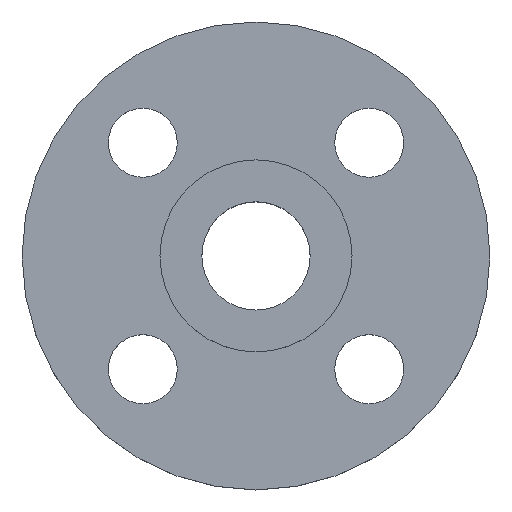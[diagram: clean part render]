
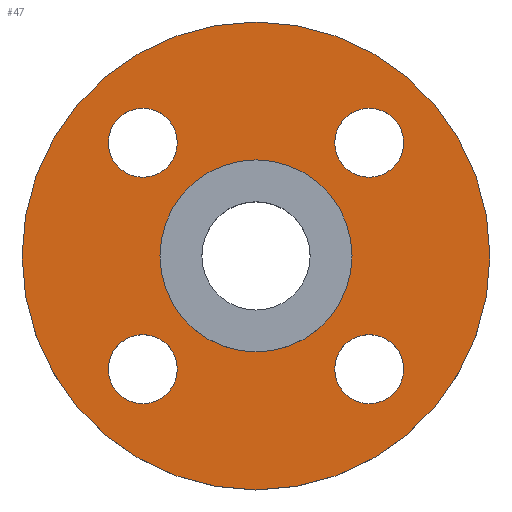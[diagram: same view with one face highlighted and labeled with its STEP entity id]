
A CAD part, top view. The second image highlights one B-rep face of the part: STEP entity #47.
In plain terms, the highlighted planar face has unit normal (0, 0, 1).
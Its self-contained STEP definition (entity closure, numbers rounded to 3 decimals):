
#10 = EDGE_CURVE ( 'NONE', #406, #481, #554, .T. ) ;
#13 = AXIS2_PLACEMENT_3D ( 'NONE', #120, #121, #118 ) ;
#14 = EDGE_CURVE ( 'NONE', #313, #429, #113, .T. ) ;
#24 = AXIS2_PLACEMENT_3D ( 'NONE', #97, #96, #94 ) ;
#32 = EDGE_CURVE ( 'NONE', #429, #313, #82, .T. ) ;
#44 = CIRCLE ( 'NONE', #383, 7. ) ;
#47 = ADVANCED_FACE ( 'NONE', ( #618, #619, #620, #621, #623, #624 ), #625, .T. ) ;
#51 = CIRCLE ( 'NONE', #455, 7. ) ;
#63 = CIRCLE ( 'NONE', #398, 7. ) ;
#64 = CIRCLE ( 'NONE', #302, 19.5 ) ;
#82 = CIRCLE ( 'NONE', #657, 7. ) ;
#84 = CIRCLE ( 'NONE', #271, 7. ) ;
#94 = DIRECTION ( 'NONE',  ( -1., 0., 0. ) ) ;
#95 = CIRCLE ( 'NONE', #13, 47.5 ) ;
#96 = DIRECTION ( 'NONE',  ( 0., 0., -1. ) ) ;
#97 = CARTESIAN_POINT ( 'NONE',  ( 0., 0., -4.5 ) ) ;
#111 = AXIS2_PLACEMENT_3D ( 'NONE', #257, #258, #259 ) ;
#113 = CIRCLE ( 'NONE', #168, 7. ) ;
#118 = DIRECTION ( 'NONE',  ( -1., 0., 0. ) ) ;
#120 = CARTESIAN_POINT ( 'NONE',  ( 0., 0., -4.5 ) ) ;
#121 = DIRECTION ( 'NONE',  ( 0., 0., -1. ) ) ;
#126 = CARTESIAN_POINT ( 'NONE',  ( 15.981, 22.981, -4.5 ) ) ;
#130 = CARTESIAN_POINT ( 'NONE',  ( 15.981, -22.981, -4.5 ) ) ;
#154 = CARTESIAN_POINT ( 'NONE',  ( -29.981, 22.981, -4.5 ) ) ;
#155 = CARTESIAN_POINT ( 'NONE',  ( -15.981, -22.981, -4.5 ) ) ;
#168 = AXIS2_PLACEMENT_3D ( 'NONE', #588, #590, #591 ) ;
#190 = EDGE_CURVE ( 'NONE', #577, #389, #272, .T. ) ;
#212 = EDGE_CURVE ( 'NONE', #481, #406, #44, .T. ) ;
#213 = CARTESIAN_POINT ( 'NONE',  ( 19.5, 0., -4.5 ) ) ;
#221 = AXIS2_PLACEMENT_3D ( 'NONE', #683, #684, #685 ) ;
#225 = EDGE_CURVE ( 'NONE', #387, #423, #63, .T. ) ;
#257 = CARTESIAN_POINT ( 'NONE',  ( -22.981, 22.981, -4.5 ) ) ;
#258 = DIRECTION ( 'NONE',  ( 0., 0., -1. ) ) ;
#259 = DIRECTION ( 'NONE',  ( 1., 0., 0. ) ) ;
#262 = CARTESIAN_POINT ( 'NONE',  ( -22.981, 22.981, -4.5 ) ) ;
#263 = DIRECTION ( 'NONE',  ( 0., 0., -1. ) ) ;
#267 = DIRECTION ( 'NONE',  ( 1., 0., 0. ) ) ;
#271 = AXIS2_PLACEMENT_3D ( 'NONE', #262, #263, #267 ) ;
#272 = CIRCLE ( 'NONE', #221, 19.5 ) ;
#278 = EDGE_CURVE ( 'NONE', #425, #399, #293, .T. ) ;
#279 = EDGE_CURVE ( 'NONE', #399, #425, #84, .T. ) ;
#287 = EDGE_CURVE ( 'NONE', #389, #577, #64, .T. ) ;
#293 = CIRCLE ( 'NONE', #111, 7. ) ;
#294 = CARTESIAN_POINT ( 'NONE',  ( 0., 0., -4.5 ) ) ;
#302 = AXIS2_PLACEMENT_3D ( 'NONE', #294, #323, #324 ) ;
#313 = VERTEX_POINT ( 'NONE', #338 ) ;
#315 = VERTEX_POINT ( 'NONE', #341 ) ;
#323 = DIRECTION ( 'NONE',  ( 0., 0., -1. ) ) ;
#324 = DIRECTION ( 'NONE',  ( -1., 0., 0. ) ) ;
#338 = CARTESIAN_POINT ( 'NONE',  ( 29.981, -22.981, -4.5 ) ) ;
#341 = CARTESIAN_POINT ( 'NONE',  ( 47.5, 0., -4.5 ) ) ;
#363 = CARTESIAN_POINT ( 'NONE',  ( 29.981, 22.981, -4.5 ) ) ;
#365 = CARTESIAN_POINT ( 'NONE',  ( -19.5, 0., -4.5 ) ) ;
#371 = CARTESIAN_POINT ( 'NONE',  ( -47.5, 0., -4.5 ) ) ;
#373 = CARTESIAN_POINT ( 'NONE',  ( -15.981, 22.981, -4.5 ) ) ;
#374 = CARTESIAN_POINT ( 'NONE',  ( -29.981, -22.981, -4.5 ) ) ;
#375 = CARTESIAN_POINT ( 'NONE',  ( 22.981, 22.981, -4.5 ) ) ;
#376 = DIRECTION ( 'NONE',  ( 0., 0., -1. ) ) ;
#383 = AXIS2_PLACEMENT_3D ( 'NONE', #688, #694, #695 ) ;
#384 = DIRECTION ( 'NONE',  ( 1., 0., 0. ) ) ;
#387 = VERTEX_POINT ( 'NONE', #363 ) ;
#389 = VERTEX_POINT ( 'NONE', #365 ) ;
#395 = VERTEX_POINT ( 'NONE', #371 ) ;
#398 = AXIS2_PLACEMENT_3D ( 'NONE', #699, #700, #701 ) ;
#399 = VERTEX_POINT ( 'NONE', #373 ) ;
#406 = VERTEX_POINT ( 'NONE', #374 ) ;
#409 = EDGE_CURVE ( 'NONE', #423, #387, #51, .T. ) ;
#423 = VERTEX_POINT ( 'NONE', #126 ) ;
#425 = VERTEX_POINT ( 'NONE', #154 ) ;
#429 = VERTEX_POINT ( 'NONE', #130 ) ;
#455 = AXIS2_PLACEMENT_3D ( 'NONE', #375, #376, #384 ) ;
#460 = ORIENTED_EDGE ( 'NONE', *, *, #14, .T. ) ;
#461 = ORIENTED_EDGE ( 'NONE', *, *, #32, .T. ) ;
#462 = ORIENTED_EDGE ( 'NONE', *, *, #212, .T. ) ;
#463 = ORIENTED_EDGE ( 'NONE', *, *, #10, .T. ) ;
#464 = ORIENTED_EDGE ( 'NONE', *, *, #279, .T. ) ;
#465 = ORIENTED_EDGE ( 'NONE', *, *, #278, .T. ) ;
#466 = ORIENTED_EDGE ( 'NONE', *, *, #225, .T. ) ;
#467 = ORIENTED_EDGE ( 'NONE', *, *, #409, .T. ) ;
#468 = ORIENTED_EDGE ( 'NONE', *, *, #287, .T. ) ;
#469 = ORIENTED_EDGE ( 'NONE', *, *, #190, .T. ) ;
#470 = ORIENTED_EDGE ( 'NONE', *, *, #628, .F. ) ;
#471 = ORIENTED_EDGE ( 'NONE', *, *, #690, .F. ) ;
#481 = VERTEX_POINT ( 'NONE', #155 ) ;
#512 = AXIS2_PLACEMENT_3D ( 'NONE', #626, #627, #629 ) ;
#525 = EDGE_LOOP ( 'NONE', ( #462, #463 ) ) ;
#536 = AXIS2_PLACEMENT_3D ( 'NONE', #585, #586, #587 ) ;
#541 = EDGE_LOOP ( 'NONE', ( #468, #469 ) ) ;
#551 = EDGE_LOOP ( 'NONE', ( #470, #471 ) ) ;
#554 = CIRCLE ( 'NONE', #536, 7. ) ;
#560 = EDGE_LOOP ( 'NONE', ( #466, #467 ) ) ;
#567 = EDGE_LOOP ( 'NONE', ( #464, #465 ) ) ;
#568 = EDGE_LOOP ( 'NONE', ( #460, #461 ) ) ;
#577 = VERTEX_POINT ( 'NONE', #213 ) ;
#585 = CARTESIAN_POINT ( 'NONE',  ( -22.981, -22.981, -4.5 ) ) ;
#586 = DIRECTION ( 'NONE',  ( 0., 0., -1. ) ) ;
#587 = DIRECTION ( 'NONE',  ( 1., 0., 0. ) ) ;
#588 = CARTESIAN_POINT ( 'NONE',  ( 22.981, -22.981, -4.5 ) ) ;
#589 = CIRCLE ( 'NONE', #24, 47.5 ) ;
#590 = DIRECTION ( 'NONE',  ( 0., 0., -1. ) ) ;
#591 = DIRECTION ( 'NONE',  ( 1., 0., 0. ) ) ;
#604 = CARTESIAN_POINT ( 'NONE',  ( 22.981, -22.981, -4.5 ) ) ;
#605 = DIRECTION ( 'NONE',  ( 0., 0., -1. ) ) ;
#606 = DIRECTION ( 'NONE',  ( 1., 0., 0. ) ) ;
#618 = FACE_BOUND ( 'NONE', #568, .T. ) ;
#619 = FACE_BOUND ( 'NONE', #525, .T. ) ;
#620 = FACE_BOUND ( 'NONE', #567, .T. ) ;
#621 = FACE_BOUND ( 'NONE', #560, .T. ) ;
#623 = FACE_BOUND ( 'NONE', #541, .T. ) ;
#624 = FACE_OUTER_BOUND ( 'NONE', #551, .T. ) ;
#625 = PLANE ( 'NONE',  #512 ) ;
#626 = CARTESIAN_POINT ( 'NONE',  ( 19.5, 0., -4.5 ) ) ;
#627 = DIRECTION ( 'NONE',  ( 0., 0., 1. ) ) ;
#628 = EDGE_CURVE ( 'NONE', #315, #395, #95, .T. ) ;
#629 = DIRECTION ( 'NONE',  ( 1., 0., 0. ) ) ;
#657 = AXIS2_PLACEMENT_3D ( 'NONE', #604, #605, #606 ) ;
#683 = CARTESIAN_POINT ( 'NONE',  ( 0., 0., -4.5 ) ) ;
#684 = DIRECTION ( 'NONE',  ( 0., 0., -1. ) ) ;
#685 = DIRECTION ( 'NONE',  ( -1., 0., 0. ) ) ;
#688 = CARTESIAN_POINT ( 'NONE',  ( -22.981, -22.981, -4.5 ) ) ;
#690 = EDGE_CURVE ( 'NONE', #395, #315, #589, .T. ) ;
#694 = DIRECTION ( 'NONE',  ( 0., 0., -1. ) ) ;
#695 = DIRECTION ( 'NONE',  ( 1., 0., 0. ) ) ;
#699 = CARTESIAN_POINT ( 'NONE',  ( 22.981, 22.981, -4.5 ) ) ;
#700 = DIRECTION ( 'NONE',  ( 0., 0., -1. ) ) ;
#701 = DIRECTION ( 'NONE',  ( 1., 0., 0. ) ) ;
